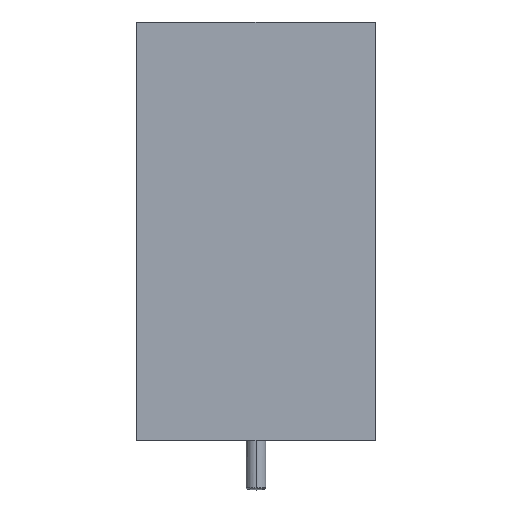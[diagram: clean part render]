
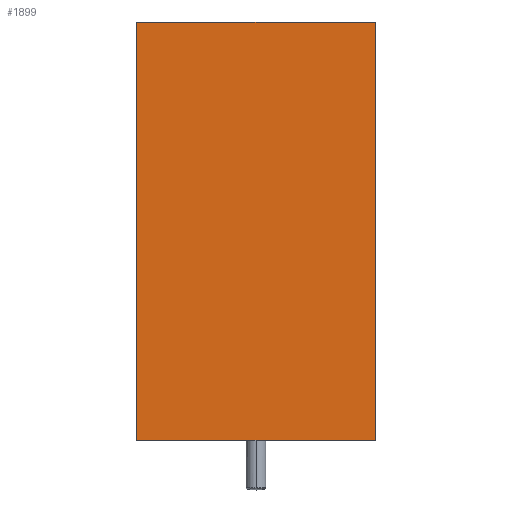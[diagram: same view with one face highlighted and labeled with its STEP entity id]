
A CAD part, front view. The second image highlights one B-rep face of the part: STEP entity #1899.
In plain terms, the highlighted planar face has unit normal (0, -1, 0).
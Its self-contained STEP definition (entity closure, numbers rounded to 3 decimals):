
#64 = CARTESIAN_POINT ( 'NONE',  ( -60., 68., -58.25 ) ) ;
#86 = EDGE_CURVE ( 'NONE', #897, #1219, #2723, .T. ) ;
#91 = VERTEX_POINT ( 'NONE', #105 ) ;
#98 = LINE ( 'NONE', #1462, #2435 ) ;
#105 = CARTESIAN_POINT ( 'NONE',  ( -60., 68., 151.75 ) ) ;
#162 = VECTOR ( 'NONE', #769, 1000. ) ;
#234 = PLANE ( 'NONE',  #1819 ) ;
#263 = FACE_OUTER_BOUND ( 'NONE', #336, .T. ) ;
#291 = VECTOR ( 'NONE', #2466, 1000. ) ;
#336 = EDGE_LOOP ( 'NONE', ( #2052, #1767, #1755, #539 ) ) ;
#348 = DIRECTION ( 'NONE',  ( 0., 1., 0. ) ) ;
#539 = ORIENTED_EDGE ( 'NONE', *, *, #2184, .F. ) ;
#541 = CARTESIAN_POINT ( 'NONE',  ( 60., 68., -53.25 ) ) ;
#556 = DIRECTION ( 'NONE',  ( 1., 0., 0. ) ) ;
#646 = CARTESIAN_POINT ( 'NONE',  ( -60., 68., 146.75 ) ) ;
#656 = EDGE_CURVE ( 'NONE', #1219, #898, #1118, .T. ) ;
#769 = DIRECTION ( 'NONE',  ( -1., 0., 0. ) ) ;
#782 = CARTESIAN_POINT ( 'NONE',  ( 60., 68., 151.75 ) ) ;
#790 = DIRECTION ( 'NONE',  ( 1., 0., 0. ) ) ;
#897 = VERTEX_POINT ( 'NONE', #782 ) ;
#898 = VERTEX_POINT ( 'NONE', #64 ) ;
#1118 = LINE ( 'NONE', #1998, #162 ) ;
#1219 = VERTEX_POINT ( 'NONE', #1268 ) ;
#1268 = CARTESIAN_POINT ( 'NONE',  ( 60., 68., -58.25 ) ) ;
#1298 = LINE ( 'NONE', #646, #2133 ) ;
#1462 = CARTESIAN_POINT ( 'NONE',  ( 60., 68., 151.75 ) ) ;
#1530 = DIRECTION ( 'NONE',  ( 0., 0., 1. ) ) ;
#1755 = ORIENTED_EDGE ( 'NONE', *, *, #2686, .F. ) ;
#1767 = ORIENTED_EDGE ( 'NONE', *, *, #86, .F. ) ;
#1819 = AXIS2_PLACEMENT_3D ( 'NONE', #1887, #348, #556 ) ;
#1887 = CARTESIAN_POINT ( 'NONE',  ( -15.201, 68., 135.837 ) ) ;
#1899 = ADVANCED_FACE ( 'NONE', ( #263 ), #234, .F. ) ;
#1998 = CARTESIAN_POINT ( 'NONE',  ( -60., 68., -58.25 ) ) ;
#2052 = ORIENTED_EDGE ( 'NONE', *, *, #656, .F. ) ;
#2133 = VECTOR ( 'NONE', #1530, 1000. ) ;
#2184 = EDGE_CURVE ( 'NONE', #898, #91, #1298, .T. ) ;
#2435 = VECTOR ( 'NONE', #790, 1000. ) ;
#2466 = DIRECTION ( 'NONE',  ( 0., 0., -1. ) ) ;
#2686 = EDGE_CURVE ( 'NONE', #91, #897, #98, .T. ) ;
#2723 = LINE ( 'NONE', #541, #291 ) ;
